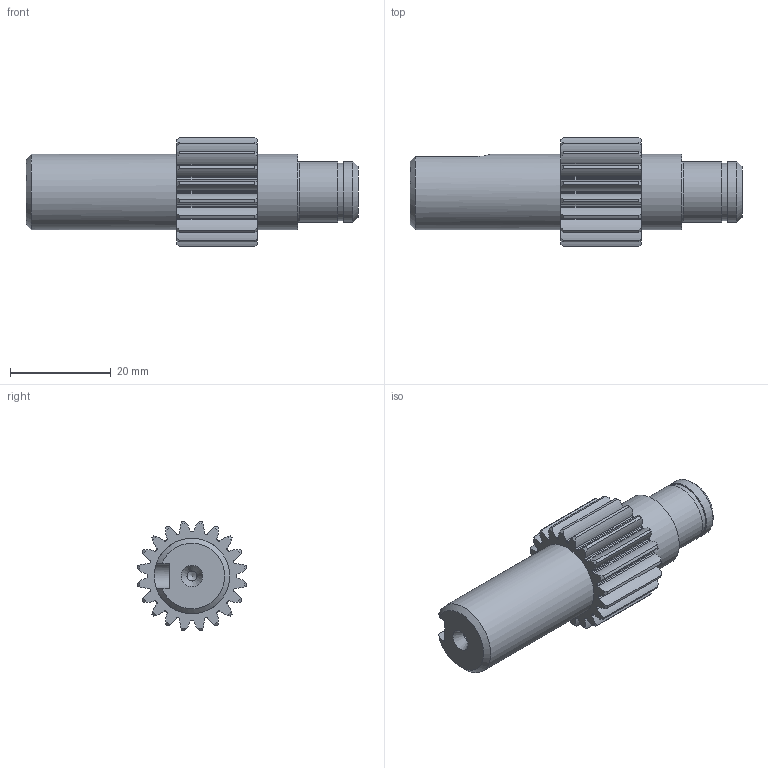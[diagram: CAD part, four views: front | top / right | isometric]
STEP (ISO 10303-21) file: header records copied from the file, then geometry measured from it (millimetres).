
FILE_DESCRIPTION(/* description */ (''),/* implementation_level */ '2;1');
FILE_NAME(/* name */ '',/* time_stamp */ '2026-07-31T13:49:57+09:00',/* author */ ('jhkim'),/* organization */ (''),/* preprocessor_version */ 'ST-DEVELOPER v20.1',/* originating_system */ 'Autodesk Inventor 2027',/* authorisation */ '');
FILE_SCHEMA (('AUTOMOTIVE_DESIGN { 1 0 10303 214 3 1 1 }'));
Length unit declared in the file: millimetre
Products named in the file (1): 기어 축
Bounding box: 66 x 21.81 x 21.81 mm (x, y, z)
Volume: 12717.1 mm3; surface area: 4867.2 mm2
Topology: 1 solids, 1 shells, 185 faces, 531 edges, 353 vertices
Faces by surface type: cylinder 128, cone 46, plane 10, torus 1
Full cylindrical faces by diameter (mm): 2 x2, 11.5 x1, 12 x2, 15 x2
Entity records: 6350 total; most frequent: CARTESIAN_POINT 1330, DIRECTION 1121, ORIENTED_EDGE 1058, EDGE_CURVE 529, AXIS2_PLACEMENT_3D 490, VERTEX_POINT 353, CIRCLE 304, EDGE_LOOP 192
